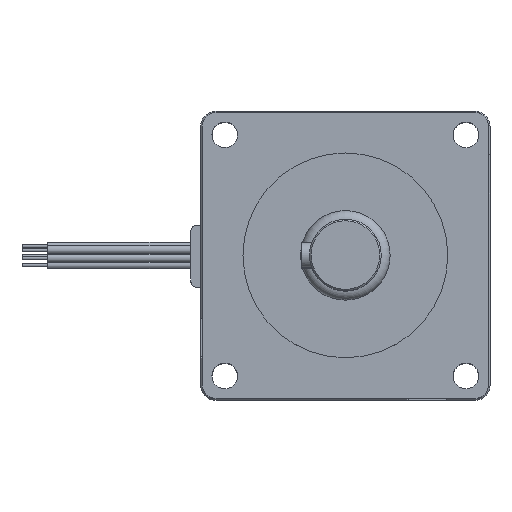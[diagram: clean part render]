
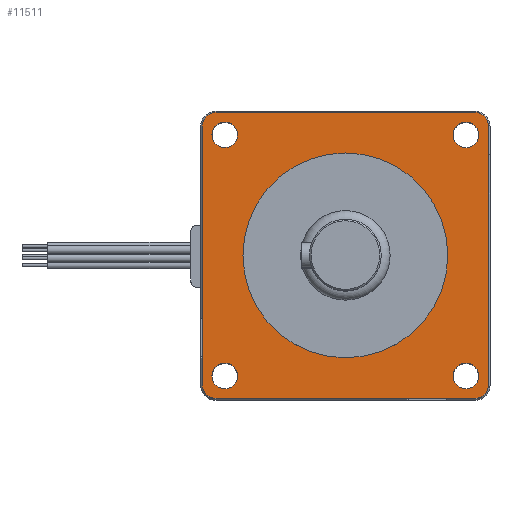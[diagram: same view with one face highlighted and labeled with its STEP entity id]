
A CAD part, top view. The second image highlights one B-rep face of the part: STEP entity #11511.
In plain terms, the highlighted planar face has unit normal (0, 0, 1).
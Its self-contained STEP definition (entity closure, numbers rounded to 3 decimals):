
#516=CIRCLE('',#12266,2.7);
#518=CIRCLE('',#12270,2.7);
#520=CIRCLE('',#12274,2.7);
#522=CIRCLE('',#12278,2.7);
#523=CIRCLE('',#12280,2.5);
#525=CIRCLE('',#12283,2.5);
#527=CIRCLE('',#12286,2.5);
#529=CIRCLE('',#12289,2.5);
#531=CIRCLE('',#12293,20.);
#670=FACE_BOUND('',#2200,.T.);
#671=FACE_BOUND('',#2201,.T.);
#672=FACE_BOUND('',#2202,.T.);
#673=FACE_BOUND('',#2203,.T.);
#674=FACE_BOUND('',#2204,.T.);
#1425=FACE_OUTER_BOUND('',#2199,.T.);
#2199=EDGE_LOOP('',(#10441,#10442,#10443,#10444,#10445,#10446,#10447,#10448));
#2200=EDGE_LOOP('',(#10449));
#2201=EDGE_LOOP('',(#10450));
#2202=EDGE_LOOP('',(#10451));
#2203=EDGE_LOOP('',(#10452));
#2204=EDGE_LOOP('',(#10453));
#3557=LINE('',#20207,#4649);
#3562=LINE('',#20220,#4654);
#3566=LINE('',#20232,#4658);
#3570=LINE('',#20244,#4662);
#4649=VECTOR('',#14863,50.5);
#4654=VECTOR('',#14876,50.5);
#4658=VECTOR('',#14888,50.5);
#4662=VECTOR('',#14900,50.5);
#5694=VERTEX_POINT('',#20204);
#5695=VERTEX_POINT('',#20206);
#5697=VERTEX_POINT('',#20212);
#5699=VERTEX_POINT('',#20218);
#5701=VERTEX_POINT('',#20224);
#5703=VERTEX_POINT('',#20230);
#5705=VERTEX_POINT('',#20236);
#5707=VERTEX_POINT('',#20242);
#5708=VERTEX_POINT('',#20249);
#5710=VERTEX_POINT('',#20254);
#5712=VERTEX_POINT('',#20259);
#5714=VERTEX_POINT('',#20264);
#5716=VERTEX_POINT('',#20270);
#7270=EDGE_CURVE('',#5695,#5694,#3557,.T.);
#7274=EDGE_CURVE('',#5694,#5697,#516,.T.);
#7277=EDGE_CURVE('',#5697,#5699,#3562,.T.);
#7280=EDGE_CURVE('',#5699,#5701,#518,.T.);
#7283=EDGE_CURVE('',#5701,#5703,#3566,.T.);
#7286=EDGE_CURVE('',#5703,#5705,#520,.T.);
#7289=EDGE_CURVE('',#5705,#5707,#3570,.T.);
#7291=EDGE_CURVE('',#5707,#5695,#522,.T.);
#7292=EDGE_CURVE('',#5708,#5708,#523,.T.);
#7294=EDGE_CURVE('',#5710,#5710,#525,.T.);
#7296=EDGE_CURVE('',#5712,#5712,#527,.T.);
#7298=EDGE_CURVE('',#5714,#5714,#529,.T.);
#7300=EDGE_CURVE('',#5716,#5716,#531,.T.);
#10441=ORIENTED_EDGE('',*,*,#7270,.T.);
#10442=ORIENTED_EDGE('',*,*,#7274,.T.);
#10443=ORIENTED_EDGE('',*,*,#7277,.T.);
#10444=ORIENTED_EDGE('',*,*,#7280,.T.);
#10445=ORIENTED_EDGE('',*,*,#7283,.T.);
#10446=ORIENTED_EDGE('',*,*,#7286,.T.);
#10447=ORIENTED_EDGE('',*,*,#7289,.T.);
#10448=ORIENTED_EDGE('',*,*,#7291,.T.);
#10449=ORIENTED_EDGE('',*,*,#7292,.T.);
#10450=ORIENTED_EDGE('',*,*,#7294,.T.);
#10451=ORIENTED_EDGE('',*,*,#7296,.T.);
#10452=ORIENTED_EDGE('',*,*,#7298,.T.);
#10453=ORIENTED_EDGE('',*,*,#7300,.T.);
#10871=PLANE('',#12292);
#11511=ADVANCED_FACE('',(#1425,#670,#671,#672,#673,#674),#10871,.T.);
#12266=AXIS2_PLACEMENT_3D('',#20214,#14870,#14871);
#12270=AXIS2_PLACEMENT_3D('',#20226,#14882,#14883);
#12274=AXIS2_PLACEMENT_3D('',#20238,#14894,#14895);
#12278=AXIS2_PLACEMENT_3D('',#20247,#14905,#14906);
#12280=AXIS2_PLACEMENT_3D('',#20250,#14909,#14910);
#12283=AXIS2_PLACEMENT_3D('',#20255,#14915,#14916);
#12286=AXIS2_PLACEMENT_3D('',#20260,#14921,#14922);
#12289=AXIS2_PLACEMENT_3D('',#20265,#14927,#14928);
#12292=AXIS2_PLACEMENT_3D('',#20269,#14933,#14934);
#12293=AXIS2_PLACEMENT_3D('',#20271,#14935,#14936);
#14863=DIRECTION('',(0.,1.,0.));
#14870=DIRECTION('center_axis',(0.,0.,1.));
#14871=DIRECTION('ref_axis',(1.,0.,0.));
#14876=DIRECTION('',(-1.,0.,0.));
#14882=DIRECTION('center_axis',(0.,0.,1.));
#14883=DIRECTION('ref_axis',(0.,1.,0.));
#14888=DIRECTION('',(0.,-1.,0.));
#14894=DIRECTION('center_axis',(0.,0.,1.));
#14895=DIRECTION('ref_axis',(-1.,0.,0.));
#14900=DIRECTION('',(1.,0.,0.));
#14905=DIRECTION('center_axis',(0.,0.,1.));
#14906=DIRECTION('ref_axis',(0.,-1.,0.));
#14909=DIRECTION('center_axis',(0.,0.,-1.));
#14910=DIRECTION('ref_axis',(-1.,0.,0.));
#14915=DIRECTION('center_axis',(0.,0.,-1.));
#14916=DIRECTION('ref_axis',(-1.,0.,0.));
#14921=DIRECTION('center_axis',(0.,0.,-1.));
#14922=DIRECTION('ref_axis',(-1.,0.,0.));
#14927=DIRECTION('center_axis',(0.,0.,-1.));
#14928=DIRECTION('ref_axis',(-1.,0.,0.));
#14933=DIRECTION('center_axis',(0.,0.,1.));
#14934=DIRECTION('ref_axis',(1.,0.,0.));
#14935=DIRECTION('center_axis',(0.,0.,-1.));
#14936=DIRECTION('ref_axis',(-1.,0.,0.));
#20204=CARTESIAN_POINT('',(56.2,53.5,62.));
#20206=CARTESIAN_POINT('',(56.2,3.,62.));
#20207=CARTESIAN_POINT('',(56.2,3.,62.));
#20212=CARTESIAN_POINT('',(53.5,56.2,62.));
#20214=CARTESIAN_POINT('Origin',(53.5,53.5,62.));
#20218=CARTESIAN_POINT('',(3.,56.2,62.));
#20220=CARTESIAN_POINT('',(53.5,56.2,62.));
#20224=CARTESIAN_POINT('',(0.3,53.5,62.));
#20226=CARTESIAN_POINT('Origin',(3.,53.5,62.));
#20230=CARTESIAN_POINT('',(0.3,3.,62.));
#20232=CARTESIAN_POINT('',(0.3,53.5,62.));
#20236=CARTESIAN_POINT('',(3.,0.3,62.));
#20238=CARTESIAN_POINT('Origin',(3.,3.,62.));
#20242=CARTESIAN_POINT('',(53.5,0.3,62.));
#20244=CARTESIAN_POINT('',(3.,0.3,62.));
#20247=CARTESIAN_POINT('Origin',(53.5,3.,62.));
#20249=CARTESIAN_POINT('',(54.3,51.8,62.));
#20250=CARTESIAN_POINT('Origin',(51.8,51.8,62.));
#20254=CARTESIAN_POINT('',(7.2,51.8,62.));
#20255=CARTESIAN_POINT('Origin',(4.7,51.8,62.));
#20259=CARTESIAN_POINT('',(7.2,4.7,62.));
#20260=CARTESIAN_POINT('Origin',(4.7,4.7,62.));
#20264=CARTESIAN_POINT('',(54.3,4.7,62.));
#20265=CARTESIAN_POINT('Origin',(51.8,4.7,62.));
#20269=CARTESIAN_POINT('Origin',(28.25,28.25,62.));
#20270=CARTESIAN_POINT('',(48.25,28.25,62.));
#20271=CARTESIAN_POINT('Origin',(28.25,28.25,62.));
